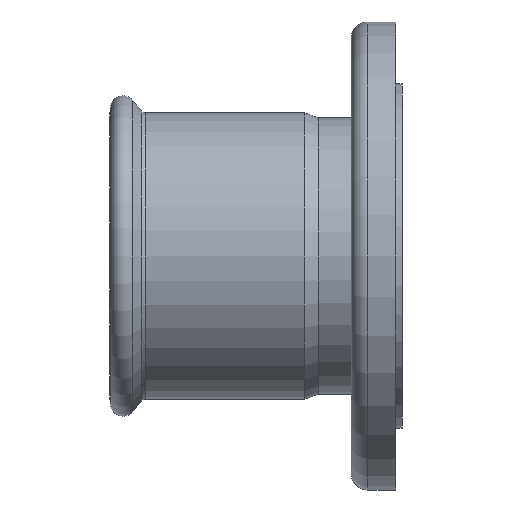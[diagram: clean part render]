
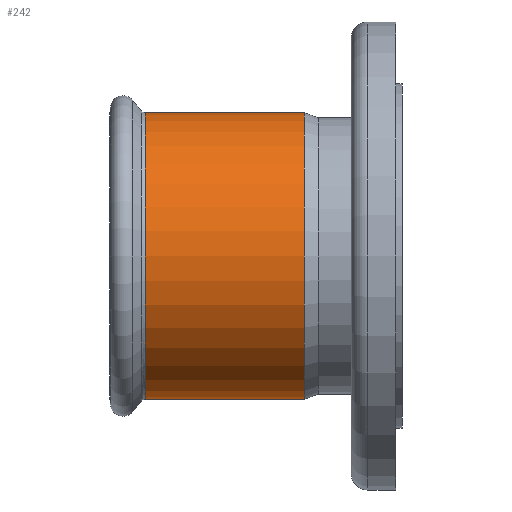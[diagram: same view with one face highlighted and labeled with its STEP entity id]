
A CAD part, front view. The second image highlights one B-rep face of the part: STEP entity #242.
In plain terms, the highlighted cylindrical face has radius 87.25 mm (diameter 174.5 mm), a full revolution.
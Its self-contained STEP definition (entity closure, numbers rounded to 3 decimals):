
#208=CARTESIAN_POINT('',(-126.439,87.25,0.0));
#209=VERTEX_POINT('',#208);
#210=CARTESIAN_POINT('',(-126.439,0.0,0.0));
#211=DIRECTION('',(1.0,0.0,0.0));
#212=DIRECTION('',(0.0,1.0,0.0));
#213=AXIS2_PLACEMENT_3D('',#210,#211,#212);
#214=CIRCLE('',#213,87.25);
#215=EDGE_CURVE('',#209,#209,#214,.T.);
#223=CARTESIAN_POINT('',(-77.99,0.0,0.0));
#224=DIRECTION('',(1.0,0.0,0.0));
#225=DIRECTION('',(0.0,1.0,0.0));
#226=AXIS2_PLACEMENT_3D('',#223,#224,#225);
#227=CYLINDRICAL_SURFACE('',#226,87.25);
#228=CARTESIAN_POINT('',(-29.542,87.25,0.0));
#229=VERTEX_POINT('',#228);
#230=CARTESIAN_POINT('',(-29.542,0.0,0.0));
#231=DIRECTION('',(1.0,0.0,0.0));
#232=DIRECTION('',(0.0,1.0,0.0));
#233=AXIS2_PLACEMENT_3D('',#230,#231,#232);
#234=CIRCLE('',#233,87.25);
#235=EDGE_CURVE('',#229,#229,#234,.T.);
#236=ORIENTED_EDGE('',*,*,#235,.F.);
#237=EDGE_LOOP('',(#236));
#238=FACE_OUTER_BOUND('',#237,.T.);
#239=ORIENTED_EDGE('',*,*,#215,.T.);
#240=EDGE_LOOP('',(#239));
#241=FACE_BOUND('',#240,.T.);
#242=ADVANCED_FACE('',(#238,#241),#227,.T.);
